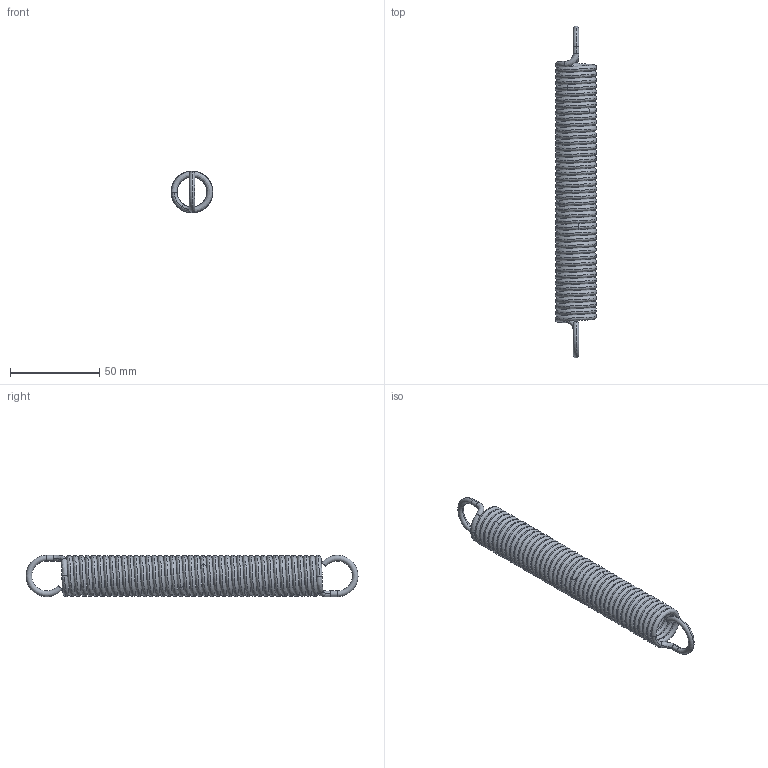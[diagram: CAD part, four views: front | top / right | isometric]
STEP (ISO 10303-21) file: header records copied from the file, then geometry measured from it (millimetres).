
FILE_DESCRIPTION((''),'2;1');
FILE_NAME('3652100332','2025-07-21T11:56:48',('markus.finger'),(''),'CREO PARAMETRIC BY PTC INC, 2022124','CREO PARAMETRIC BY PTC INC, 2022124','');
FILE_SCHEMA(('AUTOMOTIVE_DESIGN { 1 0 10303 214 1 1 1 1 }'));
Length unit declared in the file: millimetre
Products named in the file (1): 3652100332
Bounding box: 23.2 x 186.4 x 23.2 mm (x, y, z)
Volume: 43360.6 mm3; surface area: 54352.5 mm2
Topology: 4 solids, 4 shells, 68 faces, 140 edges, 84 vertices
Faces by surface type: bspline 52, plane 8, torus 4, cylinder 4
Entity records: 22548 total; most frequent: CARTESIAN_POINT 20417, ORIENTED_EDGE 264, PRESENTATION_STYLE_ASSIGNMENT 148, STYLED_ITEM 148, CURVE_STYLE 144, COLOUR_RGB 144, DIRECTION 136, EDGE_CURVE 132
